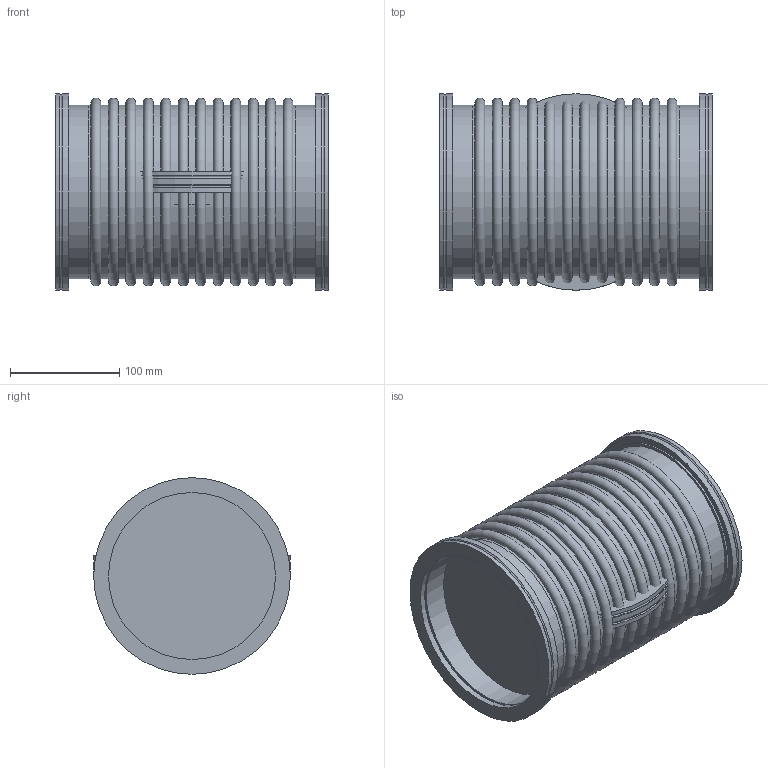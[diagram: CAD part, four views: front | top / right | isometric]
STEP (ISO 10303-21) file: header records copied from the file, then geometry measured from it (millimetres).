
FILE_DESCRIPTION( ( 'Unknown' ), '1' );
FILE_NAME( 'X:/Daten ( aktueller Bestand )/Projekte und Zeichnungen/Solid Edge/11 ISO-K Schläuche +FK/ISO-K-Wellschlauch, geglüht/6903.stp', 'Unknown', ( 'Unknown' ), ( 'Unknown' ), 'XStep 1.0', 'Unknown', ' ' );
FILE_SCHEMA( ( 'automotive_design' ) );
Length unit declared in the file: millimetre
Products named in the file (5): Assem1; Assem2; 6523-1; 6513; 6903-1
Bounding box: 250 x 180 x 180 mm (x, y, z)
Surface area: 618551.8 mm2
Topology: 10 solids, 10 shells, 122 faces, 210 edges, 120 vertices
Faces by surface type: cylinder 58, plane 32, torus 28, cone 4
Full cylindrical faces by diameter (mm): 153 x8, 159 x30, 160 x4, 165 x4, 175 x4, 180 x8
Entity records: 1192 total; most frequent: DIRECTION 186, CARTESIAN_POINT 136, AXIS2_PLACEMENT_3D 93, EDGE_LOOP 86, ORIENTED_EDGE 86, FACE_OUTER_BOUND 78, ADVANCED_FACE 44, EDGE_CURVE 43
